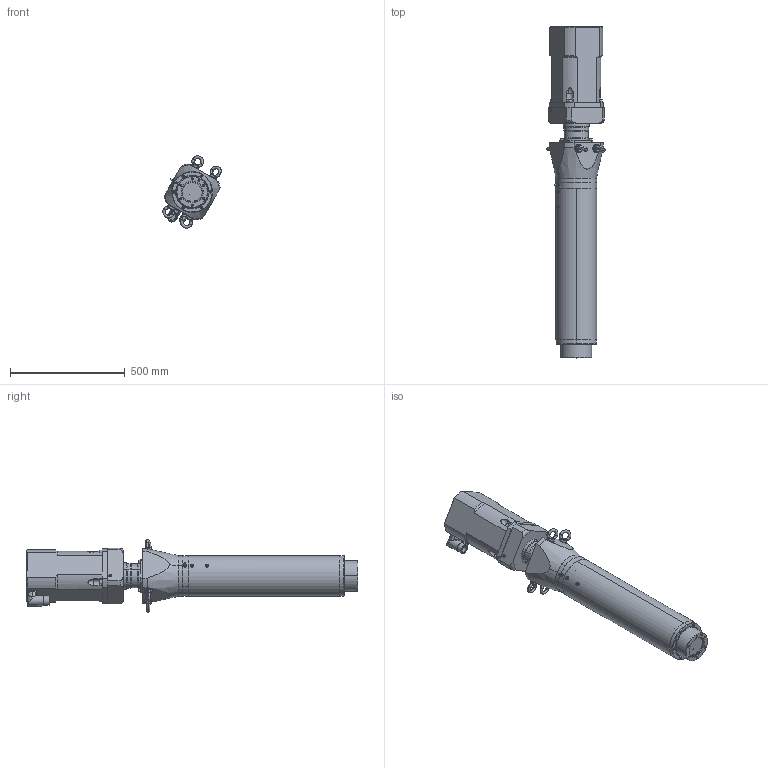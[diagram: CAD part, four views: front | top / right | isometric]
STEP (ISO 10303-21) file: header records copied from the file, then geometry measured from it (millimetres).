
FILE_DESCRIPTION (( 'STEP AP214' ), '1' );
FILE_NAME ('RLWIK060D-035-025HG0.STEP', '2023-04-06T05:30:08', ( '' ), ( '' ), 'SwSTEP 2.0', 'SolidWorks 2021', '' );
FILE_SCHEMA (( 'AUTOMOTIVE_DESIGN' ));
Length unit declared in the file: millimetre
Products named in the file (1): RLWIK060D-035-025HG0
Bounding box: 255.25 x 1449 x 316.86 mm (x, y, z)
Volume: 30921291.1 mm3; surface area: 2204734.3 mm2
Topology: 33 solids, 33 shells, 1189 faces, 2798 edges, 1652 vertices
Faces by surface type: cylinder 458, plane 345, cone 218, torus 92, bspline 74, sphere 2
Entity records: 52480 total; most frequent: CARTESIAN_POINT 12141, DIRECTION 5918, ORIENTED_EDGE 5308, EDGE_CURVE 2654, AXIS2_PLACEMENT_3D 2398, VERTEX_POINT 1652, EDGE_LOOP 1400, CIRCLE 1282
